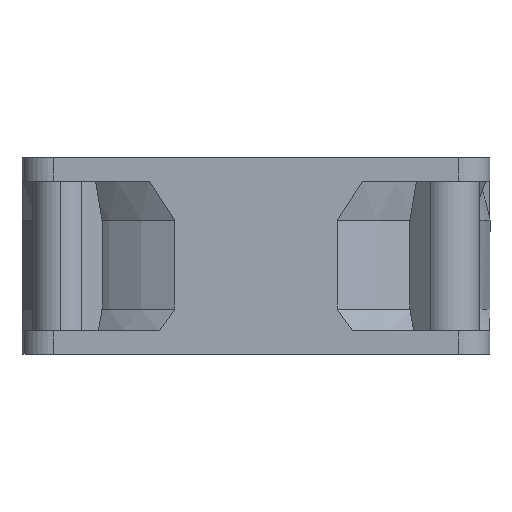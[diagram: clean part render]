
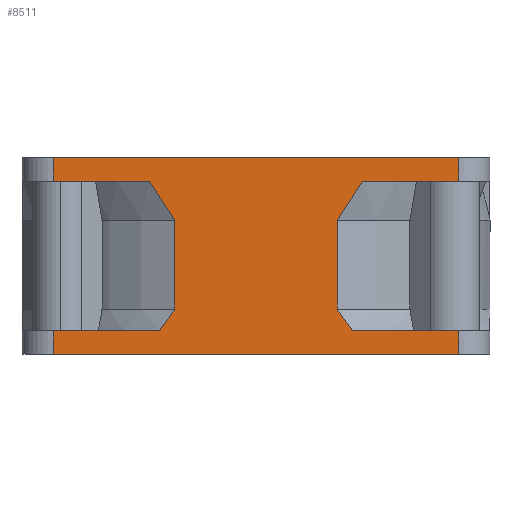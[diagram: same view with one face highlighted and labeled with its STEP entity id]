
A CAD part, front view. The second image highlights one B-rep face of the part: STEP entity #8511.
In plain terms, the highlighted planar face has unit normal (0, -1, 0).
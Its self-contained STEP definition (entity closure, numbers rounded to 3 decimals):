
#9 = DIRECTION ( 'NONE',  ( 0., 0., 1. ) ) ;
#19 = ORIENTED_EDGE ( 'NONE', *, *, #7621, .T. ) ;
#54 = CARTESIAN_POINT ( 'NONE',  ( -30., -30., 0. ) ) ;
#92 = VERTEX_POINT ( 'NONE', #5708 ) ;
#650 = CARTESIAN_POINT ( 'NONE',  ( -12.638, -30., 20.479 ) ) ;
#729 = CARTESIAN_POINT ( 'NONE',  ( 11.095, -30., 4.891 ) ) ;
#747 = ORIENTED_EDGE ( 'NONE', *, *, #2002, .T. ) ;
#1054 = LINE ( 'NONE', #54, #12925 ) ;
#1218 = VERTEX_POINT ( 'NONE', #1450 ) ;
#1270 = CARTESIAN_POINT ( 'NONE',  ( -10.395, -30., -27.737 ) ) ;
#1294 = VECTOR ( 'NONE', #5225, 1000. ) ;
#1450 = CARTESIAN_POINT ( 'NONE',  ( -26., -30., 0. ) ) ;
#1454 = CARTESIAN_POINT ( 'NONE',  ( -30., -30., 22.2 ) ) ;
#1559 = CARTESIAN_POINT ( 'NONE',  ( -30., -30., 22.2 ) ) ;
#1739 = ORIENTED_EDGE ( 'NONE', *, *, #7778, .T. ) ;
#1753 = CARTESIAN_POINT ( 'NONE',  ( 12.625, -30., 20.496 ) ) ;
#1905 = B_SPLINE_CURVE_WITH_KNOTS ( 'NONE', 3,
 ( #6782, #4335, #729, #9234 ),
 .UNSPECIFIED., .F., .F.,
 ( 4, 4 ),
 ( 0.04, 0.043 ),
 .UNSPECIFIED. ) ;
#2002 = EDGE_CURVE ( 'NONE', #3430, #8607, #13780, .T. ) ;
#2011 = ORIENTED_EDGE ( 'NONE', *, *, #8330, .T. ) ;
#2056 = VECTOR ( 'NONE', #9963, 1000. ) ;
#2071 = CARTESIAN_POINT ( 'NONE',  ( 26., -30., 25.2 ) ) ;
#2078 = ORIENTED_EDGE ( 'NONE', *, *, #13951, .F. ) ;
#2262 = VERTEX_POINT ( 'NONE', #6124 ) ;
#2357 = CARTESIAN_POINT ( 'NONE',  ( -26., -30., 25.2 ) ) ;
#2566 = EDGE_LOOP ( 'NONE', ( #15086, #11471, #5402, #19, #8201, #15441, #4284, #1739, #2011, #3056, #2078, #15766, #13883, #747, #4203, #15769 ) ) ;
#2793 = EDGE_CURVE ( 'NONE', #9455, #12439, #7538, .T. ) ;
#2962 = CARTESIAN_POINT ( 'NONE',  ( 13.64, -30., 22.2 ) ) ;
#3056 = ORIENTED_EDGE ( 'NONE', *, *, #6594, .T. ) ;
#3073 = CARTESIAN_POINT ( 'NONE',  ( -10.395, -30., 17.2 ) ) ;
#3226 = VERTEX_POINT ( 'NONE', #5698 ) ;
#3430 = VERTEX_POINT ( 'NONE', #15308 ) ;
#3439 = VERTEX_POINT ( 'NONE', #5446 ) ;
#3628 = LINE ( 'NONE', #4542, #6892 ) ;
#3857 = CARTESIAN_POINT ( 'NONE',  ( -11.094, -30., 4.892 ) ) ;
#3987 = CARTESIAN_POINT ( 'NONE',  ( -26., -30., 25.2 ) ) ;
#3996 = CARTESIAN_POINT ( 'NONE',  ( -30., -30., 25.2 ) ) ;
#4021 = CARTESIAN_POINT ( 'NONE',  ( 26., -30., 25.2 ) ) ;
#4126 = VERTEX_POINT ( 'NONE', #9411 ) ;
#4203 = ORIENTED_EDGE ( 'NONE', *, *, #15350, .T. ) ;
#4284 = ORIENTED_EDGE ( 'NONE', *, *, #11644, .T. ) ;
#4335 = CARTESIAN_POINT ( 'NONE',  ( 11.753, -30., 3.955 ) ) ;
#4414 = DIRECTION ( 'NONE',  ( 0., 1., 0. ) ) ;
#4531 = LINE ( 'NONE', #1559, #1294 ) ;
#4542 = CARTESIAN_POINT ( 'NONE',  ( -30., -30., 3. ) ) ;
#4877 = LINE ( 'NONE', #3987, #11014 ) ;
#5220 = DIRECTION ( 'NONE',  ( 0., 0., -1. ) ) ;
#5225 = DIRECTION ( 'NONE',  ( 1., 0., 0. ) ) ;
#5255 = CARTESIAN_POINT ( 'NONE',  ( -10.395, -30., 5.8 ) ) ;
#5304 = LINE ( 'NONE', #1454, #2056 ) ;
#5347 = EDGE_CURVE ( 'NONE', #92, #2262, #3628, .T. ) ;
#5402 = ORIENTED_EDGE ( 'NONE', *, *, #11260, .T. ) ;
#5446 = CARTESIAN_POINT ( 'NONE',  ( 13.64, -30., 22.2 ) ) ;
#5601 = DIRECTION ( 'NONE',  ( 0., 0., 1. ) ) ;
#5684 = VECTOR ( 'NONE', #9, 1000. ) ;
#5690 = CARTESIAN_POINT ( 'NONE',  ( 26., -30., 22.2 ) ) ;
#5698 = CARTESIAN_POINT ( 'NONE',  ( -10.395, -30., 5.8 ) ) ;
#5708 = CARTESIAN_POINT ( 'NONE',  ( -12.383, -30., 3. ) ) ;
#6124 = CARTESIAN_POINT ( 'NONE',  ( -26., -30., 3. ) ) ;
#6196 = VERTEX_POINT ( 'NONE', #2357 ) ;
#6435 = CARTESIAN_POINT ( 'NONE',  ( -26., -30., 25.2 ) ) ;
#6492 = LINE ( 'NONE', #1270, #9338 ) ;
#6594 = EDGE_CURVE ( 'NONE', #15151, #11438, #12432, .T. ) ;
#6782 = CARTESIAN_POINT ( 'NONE',  ( 12.383, -30., 3. ) ) ;
#6879 = EDGE_CURVE ( 'NONE', #2262, #1218, #8957, .T. ) ;
#6892 = VECTOR ( 'NONE', #14300, 1000. ) ;
#7380 = DIRECTION ( 'NONE',  ( -1., 0., 0. ) ) ;
#7538 = LINE ( 'NONE', #14731, #14053 ) ;
#7621 = EDGE_CURVE ( 'NONE', #12394, #9455, #8934, .T. ) ;
#7728 = CARTESIAN_POINT ( 'NONE',  ( -12.383, -30., 3. ) ) ;
#7731 = CARTESIAN_POINT ( 'NONE',  ( 10.987, -30., 18.004 ) ) ;
#7778 = EDGE_CURVE ( 'NONE', #14213, #3439, #8943, .T. ) ;
#8053 = PLANE ( 'NONE',  #13454 ) ;
#8201 = ORIENTED_EDGE ( 'NONE', *, *, #2793, .T. ) ;
#8267 = EDGE_CURVE ( 'NONE', #4126, #3430, #5304, .T. ) ;
#8330 = EDGE_CURVE ( 'NONE', #3439, #15151, #4531, .T. ) ;
#8511 = ADVANCED_FACE ( 'NONE', ( #13142 ), #8053, .F. ) ;
#8607 = VERTEX_POINT ( 'NONE', #15708 ) ;
#8631 = LINE ( 'NONE', #3996, #8997 ) ;
#8848 = CARTESIAN_POINT ( 'NONE',  ( 10.395, -30., 17.2 ) ) ;
#8934 = LINE ( 'NONE', #12168, #5684 ) ;
#8943 = B_SPLINE_CURVE_WITH_KNOTS ( 'NONE', 3,
 ( #15187, #7731, #9033, #1753, #10267, #2962 ),
 .UNSPECIFIED., .F., .F.,
 ( 4, 2, 4 ),
 ( 0.071, 0.074, 0.077 ),
 .UNSPECIFIED. ) ;
#8957 = LINE ( 'NONE', #6435, #15121 ) ;
#8997 = VECTOR ( 'NONE', #12560, 1000. ) ;
#9033 = CARTESIAN_POINT ( 'NONE',  ( 11.548, -30., 18.826 ) ) ;
#9234 = CARTESIAN_POINT ( 'NONE',  ( 10.395, -30., 5.8 ) ) ;
#9338 = VECTOR ( 'NONE', #14697, 1000. ) ;
#9411 = CARTESIAN_POINT ( 'NONE',  ( -26., -30., 22.2 ) ) ;
#9439 = LINE ( 'NONE', #11700, #12335 ) ;
#9455 = VERTEX_POINT ( 'NONE', #10458 ) ;
#9825 = DIRECTION ( 'NONE',  ( 1., 0., 0. ) ) ;
#9963 = DIRECTION ( 'NONE',  ( 1., 0., 0. ) ) ;
#9994 = DIRECTION ( 'NONE',  ( 0., 0., -1. ) ) ;
#10267 = CARTESIAN_POINT ( 'NONE',  ( 13.141, -30., 21.343 ) ) ;
#10377 = CARTESIAN_POINT ( 'NONE',  ( -13.64, -30., 22.2 ) ) ;
#10458 = CARTESIAN_POINT ( 'NONE',  ( 26., -30., 3. ) ) ;
#10473 = B_SPLINE_CURVE_WITH_KNOTS ( 'NONE', 3,
 ( #5255, #3857, #15067, #7728 ),
 .UNSPECIFIED., .F., .F.,
 ( 4, 4 ),
 ( 0.069, 0.072 ),
 .UNSPECIFIED. ) ;
#10584 = DIRECTION ( 'NONE',  ( 0., 0., 1. ) ) ;
#10815 = EDGE_CURVE ( 'NONE', #6196, #4126, #4877, .T. ) ;
#11014 = VECTOR ( 'NONE', #5220, 1000. ) ;
#11260 = EDGE_CURVE ( 'NONE', #1218, #12394, #1054, .T. ) ;
#11438 = VERTEX_POINT ( 'NONE', #4021 ) ;
#11471 = ORIENTED_EDGE ( 'NONE', *, *, #6879, .T. ) ;
#11488 = CARTESIAN_POINT ( 'NONE',  ( 10.395, -30., 5.8 ) ) ;
#11644 = EDGE_CURVE ( 'NONE', #14304, #14213, #9439, .T. ) ;
#11666 = VECTOR ( 'NONE', #10584, 1000. ) ;
#11700 = CARTESIAN_POINT ( 'NONE',  ( 10.395, -30., -27.737 ) ) ;
#12168 = CARTESIAN_POINT ( 'NONE',  ( 26., -30., 25.2 ) ) ;
#12335 = VECTOR ( 'NONE', #5601, 1000. ) ;
#12394 = VERTEX_POINT ( 'NONE', #12427 ) ;
#12427 = CARTESIAN_POINT ( 'NONE',  ( 26., -30., 0. ) ) ;
#12432 = LINE ( 'NONE', #2071, #11666 ) ;
#12439 = VERTEX_POINT ( 'NONE', #12476 ) ;
#12476 = CARTESIAN_POINT ( 'NONE',  ( 12.383, -30., 3. ) ) ;
#12560 = DIRECTION ( 'NONE',  ( 1., 0., 0. ) ) ;
#12612 = EDGE_CURVE ( 'NONE', #12439, #14304, #1905, .T. ) ;
#12925 = VECTOR ( 'NONE', #9825, 1000. ) ;
#12981 = EDGE_CURVE ( 'NONE', #3226, #92, #10473, .T. ) ;
#12983 = DIRECTION ( 'NONE',  ( 0., 0., 1. ) ) ;
#13142 = FACE_OUTER_BOUND ( 'NONE', #2566, .T. ) ;
#13454 = AXIS2_PLACEMENT_3D ( 'NONE', #15402, #4414, #12983 ) ;
#13780 = B_SPLINE_CURVE_WITH_KNOTS ( 'NONE', 3,
 ( #10377, #650, #15303, #3073 ),
 .UNSPECIFIED., .F., .F.,
 ( 4, 4 ),
 ( 0.039, 0.045 ),
 .UNSPECIFIED. ) ;
#13883 = ORIENTED_EDGE ( 'NONE', *, *, #8267, .T. ) ;
#13951 = EDGE_CURVE ( 'NONE', #6196, #11438, #8631, .T. ) ;
#14053 = VECTOR ( 'NONE', #7380, 1000. ) ;
#14213 = VERTEX_POINT ( 'NONE', #8848 ) ;
#14300 = DIRECTION ( 'NONE',  ( -1., 0., 0. ) ) ;
#14304 = VERTEX_POINT ( 'NONE', #11488 ) ;
#14697 = DIRECTION ( 'NONE',  ( 0., 0., -1. ) ) ;
#14731 = CARTESIAN_POINT ( 'NONE',  ( -30., -30., 3. ) ) ;
#15067 = CARTESIAN_POINT ( 'NONE',  ( -11.752, -30., 3.956 ) ) ;
#15086 = ORIENTED_EDGE ( 'NONE', *, *, #5347, .T. ) ;
#15121 = VECTOR ( 'NONE', #9994, 1000. ) ;
#15151 = VERTEX_POINT ( 'NONE', #5690 ) ;
#15187 = CARTESIAN_POINT ( 'NONE',  ( 10.395, -30., 17.2 ) ) ;
#15303 = CARTESIAN_POINT ( 'NONE',  ( -11.574, -30., 18.8 ) ) ;
#15308 = CARTESIAN_POINT ( 'NONE',  ( -13.64, -30., 22.2 ) ) ;
#15350 = EDGE_CURVE ( 'NONE', #8607, #3226, #6492, .T. ) ;
#15402 = CARTESIAN_POINT ( 'NONE',  ( -30., -30., 25.2 ) ) ;
#15441 = ORIENTED_EDGE ( 'NONE', *, *, #12612, .T. ) ;
#15708 = CARTESIAN_POINT ( 'NONE',  ( -10.395, -30., 17.2 ) ) ;
#15766 = ORIENTED_EDGE ( 'NONE', *, *, #10815, .T. ) ;
#15769 = ORIENTED_EDGE ( 'NONE', *, *, #12981, .T. ) ;
